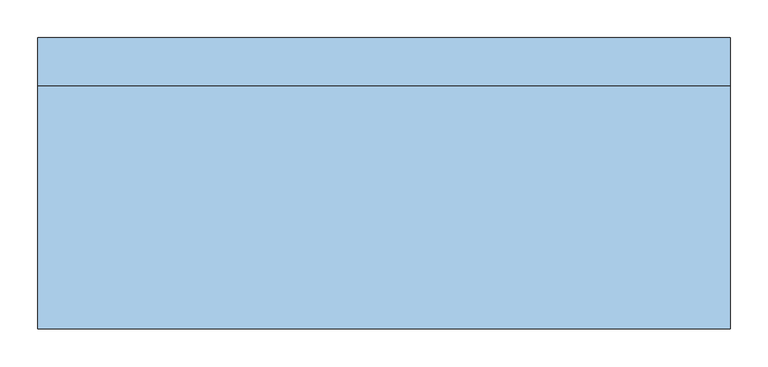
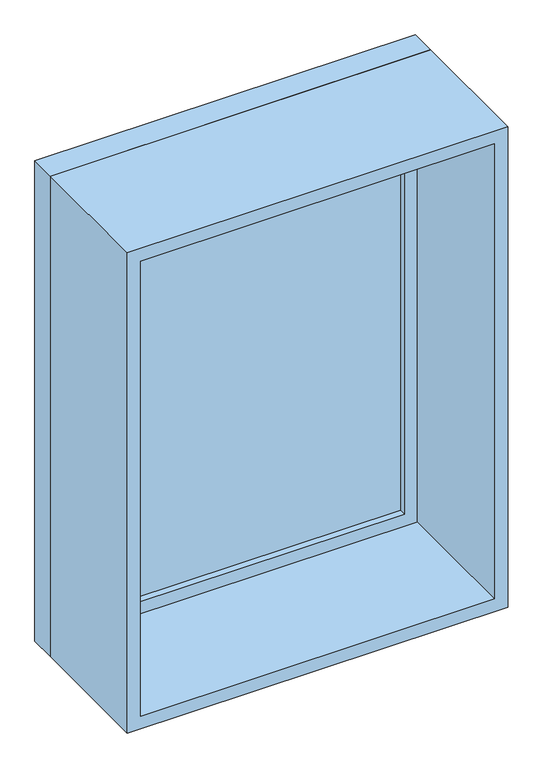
"""IFC4 building model written with IfcOpenShell, lengths in millimetres: window geometry, Фиксированные : 0915 x 1220 мм."""

from ifc_helpers import new_model, si_unit, frame, origin, place, context, project, spatial, polyline, outline, extrude, source, transform, mapped, element, save


def window_8de6a101(model_context):
    return source(origin(), model_context, "Body", "SweptSolid", [
        extrude(outline(polyline([(-394.5, 170.5), (394.5, 170.5), (394.5, 158.5), (-394.5, 158.5), (-394.5, 170.5)])), frame((0.0, 0.0, 978.0), z_axis=(0.0, 0.0, 1.0), x_axis=(1.0, 0.0, 0.0)), (0.0, 0.0, 1.0), 1094.0),
        extrude(outline(polyline([(2116.0, -438.5), (934.0, -438.5), (934.0, 438.5), (2116.0, 438.5), (2116.0, -438.5)]), holes=[polyline([(2072.0, -394.5), (2072.0, 394.5), (978.0, 394.5), (978.0, -394.5), (2072.0, -394.5)])]), frame((0.0, 142.5, 0.0), z_axis=(0.0, 1.0, 0.0), x_axis=(0.0, 0.0, 1.0)), (0.0, 0.0, 1.0), 44.0),
        extrude(outline(polyline([(2135.0, -457.5), (915.0, -457.5), (915.0, 457.5), (2135.0, 457.5), (2135.0, -457.5)]), holes=[polyline([(2116.0, -438.5), (2116.0, 438.5), (934.0, 438.5), (934.0, -438.5), (2116.0, -438.5)])]), frame((0.0, 142.5, 0.0), z_axis=(0.0, 1.0, 0.0), x_axis=(0.0, 0.0, 1.0)), (0.0, 0.0, 1.0), 63.0),
        extrude(outline(polyline([(2135.0, -457.5), (915.0, -457.5), (915.0, 457.5), (2135.0, 457.5), (2135.0, -457.5)]), holes=[polyline([(2103.0, -425.5), (2103.0, 425.5), (947.0, 425.5), (947.0, -425.5), (2103.0, -425.5)])]), frame((0.0, -179.5, 0.0), z_axis=(0.0, 1.0, 0.0), x_axis=(0.0, 0.0, 1.0)), (0.0, 0.0, 1.0), 322.0),
    ])


if __name__ == "__main__":
    model = new_model("IFC4")
    model_context = context("Model", 3, world=origin())
    ifc_project = project(units=[si_unit("LENGTHUNIT", "METRE", prefix="MILLI")], contexts=[model_context])
    site = spatial("IfcSite", under=ifc_project)
    building = spatial("IfcBuilding", under=site)
    placement = place(None, origin())
    window_shape = window_8de6a101(model_context)
    element("IfcWindow", 1, ObjectType="Фиксированные : 0915 x 1220 мм", at=placement, inside=building, context=model_context, shape_type="MappedRepresentation", body=[
        mapped(window_shape, transform((0.0, 0.0, 0.0), x_axis=(1.0, 0.0, 0.0), y_axis=(0.0, 1.0, 0.0), z_axis=(0.0, 0.0, 1.0))),
    ])
    save(model, "model.ifc")
